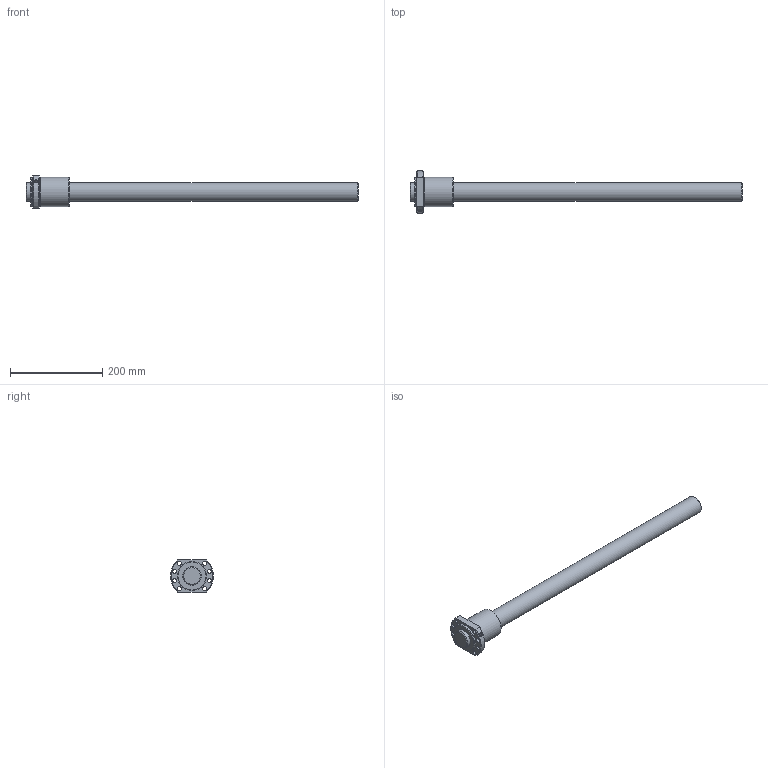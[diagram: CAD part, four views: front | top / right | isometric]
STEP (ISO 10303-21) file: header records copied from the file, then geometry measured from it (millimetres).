
FILE_DESCRIPTION(/* description */ ('STEP AP214'),/* implementation_level */ '2;1');
FILE_NAME(/* name */ 'EBB4010-3RRG0+720LC0-ebb2(616G000)-ebb2',/* time_stamp */ '2023-08-03T12:51:32+02:00',/* author */ ('License CC BY-ND 4.0'),/* organization */ ('CADENAS'),/* preprocessor_version */ 'ST-DEVELOPER v19.3',/* originating_system */ 'PARTsolutions',/* authorisation */ ' ');
FILE_SCHEMA (('AUTOMOTIVE_DESIGN {1 0 10303 214 3 1 1}'));
Length unit declared in the file: millimetre
Products named in the file (3): EBB4010-3RRG0+720LC0-ebb2(616G000)-ebb2; EBB 4010-3RR Nut2; EBB 4010-36160 Shaft2
Assembly tree (2 placements, depth 2):
  EBB4010-3RRG0+720LC0-ebb2(616G000)-ebb2
    EBB 4010-3RR Nut2
    EBB 4010-36160 Shaft2
Bounding box: 720 x 93 x 70 mm (x, y, z)
Volume: 1088799.1 mm3; surface area: 132942.1 mm2
Topology: 2 solids, 2 shells, 34 faces, 77 edges, 50 vertices
Faces by surface type: cylinder 16, cone 9, plane 9
Full cylindrical faces by diameter (mm): 6.647 x1, 9 x8, 40 x2, 59.22 x1, 63 x2
Entity records: 1003 total; most frequent: CARTESIAN_POINT 187, DIRECTION 160, ORIENTED_EDGE 114, EDGE_LOOP 76, FACE_BOUND 76, AXIS2_PLACEMENT_3D 76, EDGE_CURVE 57, VERTEX_POINT 49
